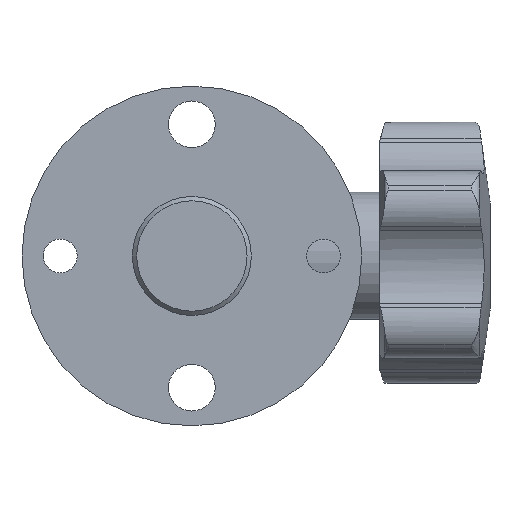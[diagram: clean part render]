
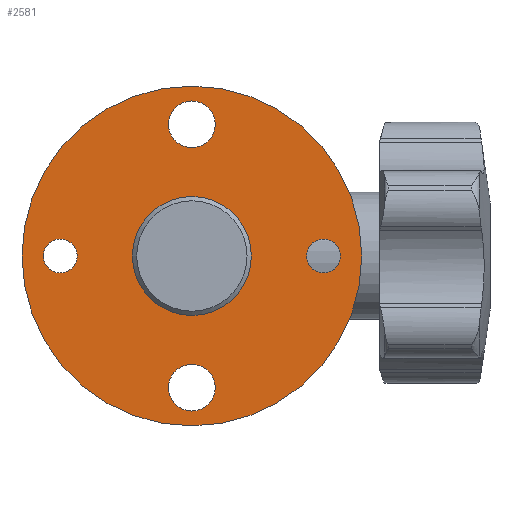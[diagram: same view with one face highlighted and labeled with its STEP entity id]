
A CAD part, left-side view. The second image highlights one B-rep face of the part: STEP entity #2581.
In plain terms, the highlighted planar face has unit normal (-1, 0, 0).
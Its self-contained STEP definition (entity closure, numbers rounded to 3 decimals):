
#124=FACE_BOUND('',#436,.T.);
#125=FACE_BOUND('',#437,.T.);
#126=FACE_BOUND('',#438,.T.);
#127=FACE_BOUND('',#439,.T.);
#128=FACE_BOUND('',#440,.T.);
#286=FACE_OUTER_BOUND('',#435,.T.);
#435=EDGE_LOOP('',(#1847,#1848));
#436=EDGE_LOOP('',(#1849));
#437=EDGE_LOOP('',(#1850));
#438=EDGE_LOOP('',(#1851));
#439=EDGE_LOOP('',(#1852));
#440=EDGE_LOOP('',(#1853));
#576=CIRCLE('',#2854,7.);
#579=CIRCLE('',#2859,2.);
#582=CIRCLE('',#2863,2.);
#591=CIRCLE('',#2879,2.75);
#594=CIRCLE('',#2883,2.75);
#599=CIRCLE('',#2890,20.);
#600=CIRCLE('',#2891,20.);
#1046=VERTEX_POINT('',#3962);
#1053=VERTEX_POINT('',#4058);
#1056=VERTEX_POINT('',#4066);
#1071=VERTEX_POINT('',#4147);
#1074=VERTEX_POINT('',#4155);
#1079=VERTEX_POINT('',#4169);
#1080=VERTEX_POINT('',#4171);
#1324=EDGE_CURVE('',#1046,#1046,#576,.T.);
#1334=EDGE_CURVE('',#1053,#1053,#579,.T.);
#1338=EDGE_CURVE('',#1056,#1056,#582,.T.);
#1361=EDGE_CURVE('',#1071,#1071,#591,.T.);
#1365=EDGE_CURVE('',#1074,#1074,#594,.T.);
#1372=EDGE_CURVE('',#1079,#1080,#599,.T.);
#1373=EDGE_CURVE('',#1080,#1079,#600,.T.);
#1847=ORIENTED_EDGE('',*,*,#1373,.F.);
#1848=ORIENTED_EDGE('',*,*,#1372,.F.);
#1849=ORIENTED_EDGE('',*,*,#1334,.T.);
#1850=ORIENTED_EDGE('',*,*,#1338,.T.);
#1851=ORIENTED_EDGE('',*,*,#1361,.T.);
#1852=ORIENTED_EDGE('',*,*,#1365,.T.);
#1853=ORIENTED_EDGE('',*,*,#1324,.T.);
#2515=PLANE('',#2899);
#2581=ADVANCED_FACE('',(#286,#124,#125,#126,#127,#128),#2515,.T.);
#2854=AXIS2_PLACEMENT_3D('',#3964,#3184,#3185);
#2859=AXIS2_PLACEMENT_3D('',#4060,#3196,#3197);
#2863=AXIS2_PLACEMENT_3D('',#4068,#3205,#3206);
#2879=AXIS2_PLACEMENT_3D('',#4149,#3247,#3248);
#2883=AXIS2_PLACEMENT_3D('',#4157,#3256,#3257);
#2890=AXIS2_PLACEMENT_3D('',#4172,#3272,#3273);
#2891=AXIS2_PLACEMENT_3D('',#4173,#3274,#3275);
#2899=AXIS2_PLACEMENT_3D('',#4187,#3292,#3293);
#3184=DIRECTION('center_axis',(1.,0.,0.));
#3185=DIRECTION('ref_axis',(0.,1.,0.));
#3196=DIRECTION('center_axis',(1.,0.,0.));
#3197=DIRECTION('ref_axis',(0.,0.,-1.));
#3205=DIRECTION('center_axis',(1.,0.,0.));
#3206=DIRECTION('ref_axis',(0.,0.,-1.));
#3247=DIRECTION('center_axis',(1.,0.,0.));
#3248=DIRECTION('ref_axis',(0.,0.,1.));
#3256=DIRECTION('center_axis',(1.,0.,0.));
#3257=DIRECTION('ref_axis',(0.,0.,-1.));
#3272=DIRECTION('center_axis',(1.,0.,0.));
#3273=DIRECTION('ref_axis',(0.,1.,0.));
#3274=DIRECTION('center_axis',(1.,0.,0.));
#3275=DIRECTION('ref_axis',(0.,1.,0.));
#3292=DIRECTION('center_axis',(-1.,0.,0.));
#3293=DIRECTION('ref_axis',(0.,0.,1.));
#3962=CARTESIAN_POINT('',(0.,-7.,0.));
#3964=CARTESIAN_POINT('Origin',(0.,0.,
0.));
#4058=CARTESIAN_POINT('',(0.,15.5,2.));
#4060=CARTESIAN_POINT('Origin',(0.,15.5,0.));
#4066=CARTESIAN_POINT('',(0.,-15.5,2.));
#4068=CARTESIAN_POINT('Origin',(0.,-15.5,0.));
#4147=CARTESIAN_POINT('',(0.,0.,12.75));
#4149=CARTESIAN_POINT('Origin',(0.,0.,15.5));
#4155=CARTESIAN_POINT('',(0.,0.,-12.75));
#4157=CARTESIAN_POINT('Origin',(0.,0.,-15.5));
#4169=CARTESIAN_POINT('',(0.,-20.,0.));
#4171=CARTESIAN_POINT('',(0.,20.,0.));
#4172=CARTESIAN_POINT('Origin',(0.,0.,
0.));
#4173=CARTESIAN_POINT('Origin',(0.,0.,
0.));
#4187=CARTESIAN_POINT('Origin',(0.,10.,0.));
